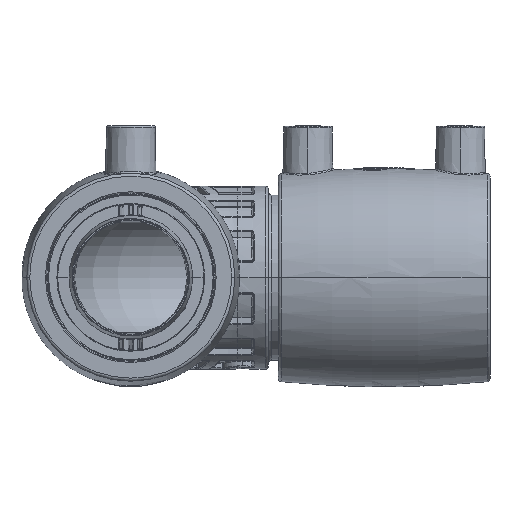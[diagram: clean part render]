
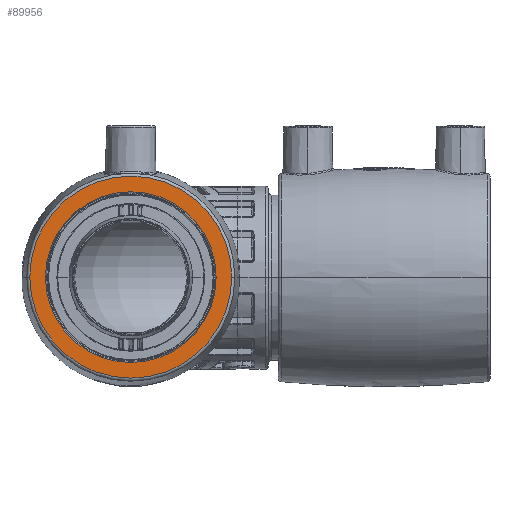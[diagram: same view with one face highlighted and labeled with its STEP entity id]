
A CAD part, top view. The second image highlights one B-rep face of the part: STEP entity #89956.
In plain terms, the highlighted planar face has unit normal (0, 0, 1) as drawn and (1, 0, 0) by its records, which use the part's own axes.
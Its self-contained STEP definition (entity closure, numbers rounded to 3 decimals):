
#1672 = DIRECTION ( 'NONE',  ( 0., 0., 1. ) ) ;
#4165 = VERTEX_POINT ( 'NONE', #97548 ) ;
#6172 = ORIENTED_EDGE ( 'NONE', *, *, #79170, .T. ) ;
#10254 = DIRECTION ( 'NONE',  ( -1., 0., 0. ) ) ;
#10275 = ORIENTED_EDGE ( 'NONE', *, *, #93868, .F. ) ;
#13916 = DIRECTION ( 'NONE',  ( -1., 0., 0. ) ) ;
#14799 = DIRECTION ( 'NONE',  ( -1., 0., 0. ) ) ;
#16567 = VERTEX_POINT ( 'NONE', #62108 ) ;
#19329 = CIRCLE ( 'NONE', #72390, 28.003 ) ;
#24934 = AXIS2_PLACEMENT_3D ( 'NONE', #68156, #14799, #62058 ) ;
#30646 = CARTESIAN_POINT ( 'NONE',  ( 34.7, 0., 28.003 ) ) ;
#31140 = AXIS2_PLACEMENT_3D ( 'NONE', #99133, #13916, #75869 ) ;
#32878 = CARTESIAN_POINT ( 'NONE',  ( 34.7, 0., 0. ) ) ;
#38873 = VERTEX_POINT ( 'NONE', #80714 ) ;
#45817 = CIRCLE ( 'NONE', #24934, 33.119 ) ;
#54100 = PLANE ( 'NONE',  #59896 ) ;
#56802 = CIRCLE ( 'NONE', #60024, 33.119 ) ;
#59896 = AXIS2_PLACEMENT_3D ( 'NONE', #93089, #94086, #69297 ) ;
#60024 = AXIS2_PLACEMENT_3D ( 'NONE', #71830, #95589, #73824 ) ;
#60974 = EDGE_LOOP ( 'NONE', ( #6172, #63740 ) ) ;
#62058 = DIRECTION ( 'NONE',  ( 0., 0., 1. ) ) ;
#62108 = CARTESIAN_POINT ( 'NONE',  ( 34.7, 0., -28.003 ) ) ;
#63740 = ORIENTED_EDGE ( 'NONE', *, *, #66648, .T. ) ;
#66648 = EDGE_CURVE ( 'NONE', #80796, #16567, #19329, .T. ) ;
#68156 = CARTESIAN_POINT ( 'NONE',  ( 34.7, 0., 0. ) ) ;
#69297 = DIRECTION ( 'NONE',  ( 0., 0., 1. ) ) ;
#70812 = FACE_OUTER_BOUND ( 'NONE', #94292, .T. ) ;
#71830 = CARTESIAN_POINT ( 'NONE',  ( 34.7, 0., 0. ) ) ;
#72390 = AXIS2_PLACEMENT_3D ( 'NONE', #32878, #10254, #1672 ) ;
#72967 = CIRCLE ( 'NONE', #31140, 28.003 ) ;
#73824 = DIRECTION ( 'NONE',  ( 0., 0., 1. ) ) ;
#75869 = DIRECTION ( 'NONE',  ( 0., 0., 1. ) ) ;
#77401 = FACE_BOUND ( 'NONE', #60974, .T. ) ;
#79170 = EDGE_CURVE ( 'NONE', #16567, #80796, #72967, .T. ) ;
#80714 = CARTESIAN_POINT ( 'NONE',  ( 34.7, 0., -33.119 ) ) ;
#80796 = VERTEX_POINT ( 'NONE', #30646 ) ;
#89956 = ADVANCED_FACE ( 'NONE', ( #70812, #77401 ), #54100, .F. ) ;
#90990 = EDGE_CURVE ( 'NONE', #38873, #4165, #56802, .T. ) ;
#93089 = CARTESIAN_POINT ( 'NONE',  ( 34.7, 28.003, 0. ) ) ;
#93868 = EDGE_CURVE ( 'NONE', #4165, #38873, #45817, .T. ) ;
#93897 = ORIENTED_EDGE ( 'NONE', *, *, #90990, .F. ) ;
#94086 = DIRECTION ( 'NONE',  ( -1., 0., 0. ) ) ;
#94292 = EDGE_LOOP ( 'NONE', ( #10275, #93897 ) ) ;
#95589 = DIRECTION ( 'NONE',  ( -1., 0., 0. ) ) ;
#97548 = CARTESIAN_POINT ( 'NONE',  ( 34.7, 0., 33.119 ) ) ;
#99133 = CARTESIAN_POINT ( 'NONE',  ( 34.7, 0., 0. ) ) ;
